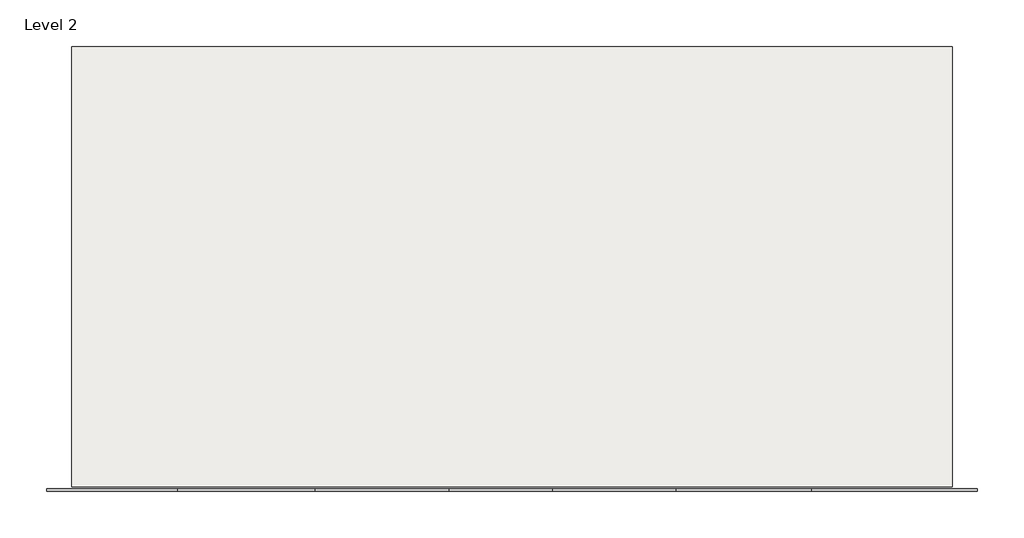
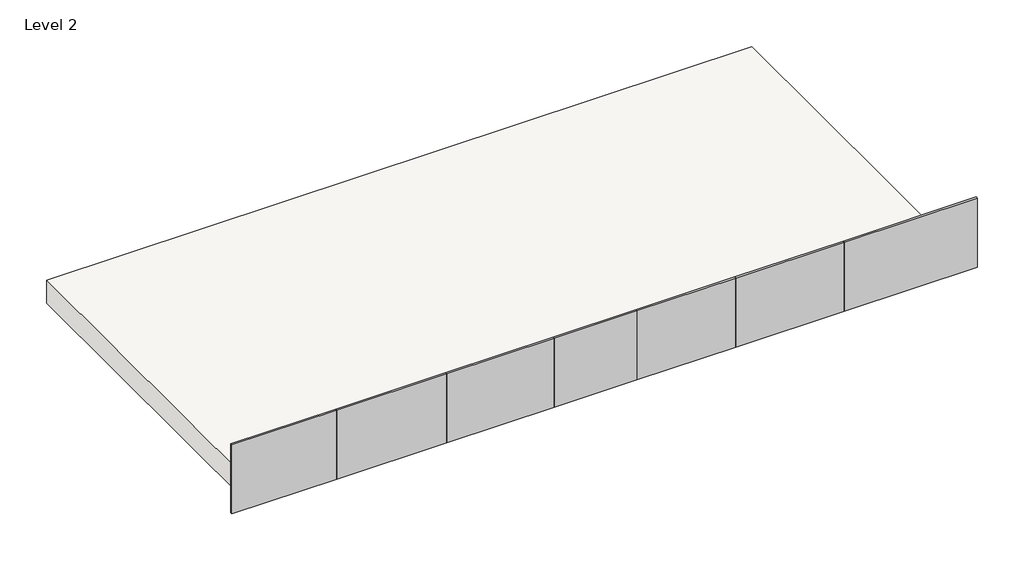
# One storey: 7 plates, 1 slab.
"""IFC4 building model written with IfcOpenShell, lengths in millimetres."""

import ifcopenshell
import ifcopenshell.guid

model = None  # the IFC model being written
_history = None  # IfcOwnerHistory: only IFC2X3 demands one
_inside = {}  # id of a spatial element -> (the spatial element, [elements in it])
_under = {}  # id of a project, library or spatial element -> (it, [spatial elements below it])
_declared = {}  # id of a project -> (the project, [libraries it declares])
_typed = {}  # id of a type object -> (the type object, [elements of that type])
_made_of = {}  # id of a material, layer set ... -> (it, [elements and type objects made of it])


def new_model(schema):
    """Start an empty IFC model of exactly this schema.

    Asked for "IFC4X3", IfcOpenShell would pick the latest addendum, in which some entities
    have other attributes; the version numbers below select the first issue.
    IFC2X3 requires an IfcOwnerHistory on every rooted entity: one is made here for all.
    """
    global model, _history
    if schema == "IFC4X3":
        model = ifcopenshell.file(schema_version=(4, 3, 0, 0))
    else:
        model = ifcopenshell.file(schema=schema)
    _inside.clear()
    _under.clear()
    _declared.clear()
    _typed.clear()
    _made_of.clear()
    _history = None
    if model.schema == "IFC2X3":
        org = make("IfcOrganization", Name="unknown")
        user = make(
            "IfcPersonAndOrganization",
            ThePerson=make("IfcPerson", FamilyName="unknown"),
            TheOrganization=org,
        )
        app = make(
            "IfcApplication",
            ApplicationDeveloper=org,
            Version="unknown",
            ApplicationFullName="unknown",
            ApplicationIdentifier="unknown",
        )
        _history = make(
            "IfcOwnerHistory",
            OwningUser=user,
            OwningApplication=app,
            ChangeAction="ADDED",
            CreationDate=0,
        )
    return model


def make(cls, **values):
    """One entity of the class cls with the attributes given. An attribute that is None is left unset."""
    return model.create_entity(
        cls, **{name: value for name, value in values.items() if value is not None}
    )


def rooted(cls, **values):
    """An entity with a GlobalId (a new one), such as an element, a storey or a relation."""
    return make(cls, GlobalId=ifcopenshell.guid.new(), OwnerHistory=_history, **values)


def si_unit(unit_type, name, prefix=None):
    """IfcSIUnit, for example si_unit("LENGTHUNIT", "METRE", prefix="MILLI")."""
    return make("IfcSIUnit", UnitType=unit_type, Prefix=prefix, Name=name)


def assignment(units):
    """IfcUnitAssignment: the units of a project."""
    return None if units is None else make("IfcUnitAssignment", Units=units)


def point(xyz):
    """IfcCartesianPoint."""
    return None if xyz is None else make("IfcCartesianPoint", Coordinates=xyz)


def direction(xyz):
    """IfcDirection."""
    return None if xyz is None else make("IfcDirection", DirectionRatios=xyz)


def frame(location, z_axis=None, x_axis=None):
    """IfcAxis2Placement3D, a coordinate frame: its origin and axes. An axis left out is left unset."""
    return make(
        "IfcAxis2Placement3D",
        Location=point(location),
        Axis=direction(z_axis),
        RefDirection=direction(x_axis),
    )


def origin():
    """The frame at (0, 0, 0) with its axes left unset."""
    return frame((0.0, 0.0, 0.0))


def origin_with_axes():
    """The frame at (0, 0, 0) with the z axis (0, 0, 1) and the x axis (1, 0, 0) written out."""
    return frame((0.0, 0.0, 0.0), z_axis=(0.0, 0.0, 1.0), x_axis=(1.0, 0.0, 0.0))


def place(relative_to, where):
    """IfcLocalPlacement: puts the frame where relative to a parent placement (None: the world)."""
    return make(
        "IfcLocalPlacement", PlacementRelTo=relative_to, RelativePlacement=where
    )


def context(
    kind, dimensions, precision=None, world=None, true_north=None, identifier=None
):
    """IfcGeometricRepresentationContext, for example the 3D "Model" context."""
    return make(
        "IfcGeometricRepresentationContext",
        ContextIdentifier=identifier,
        ContextType=kind,
        CoordinateSpaceDimension=dimensions,
        Precision=precision,
        WorldCoordinateSystem=world,
        TrueNorth=true_north,
    )


def project(units=None, contexts=None):
    """IfcProject with its units and contexts."""
    return rooted(
        "IfcProject",
        Name="project",
        RepresentationContexts=contexts,
        UnitsInContext=assignment(units),
    )


def spatial(cls, under=None, at=None, **own):
    """A site, building, storey or space (cls), placed at a placement, below another one or the project."""
    s = rooted(cls, ObjectPlacement=at, **own)
    if under is not None:
        _under.setdefault(under.id(), (under, []))[1].append(s)
    return s


def polyline(points):
    """IfcPolyline through the points."""
    return make("IfcPolyline", Points=[point(p) for p in points])


def outline(outer, holes=None, kind="AREA"):
    """IfcArbitraryClosedProfileDef: a profile drawn as a closed curve; with holes, ...WithVoids."""
    if holes is None:
        return make("IfcArbitraryClosedProfileDef", ProfileType=kind, OuterCurve=outer)
    return make(
        "IfcArbitraryProfileDefWithVoids",
        ProfileType=kind,
        OuterCurve=outer,
        InnerCurves=holes,
    )


def extrude(swept, where, along, depth):
    """IfcExtrudedAreaSolid: the profile swept, set in the frame where, extruded along a direction by depth."""
    return make(
        "IfcExtrudedAreaSolid",
        SweptArea=swept,
        Position=where,
        ExtrudedDirection=direction(along),
        Depth=depth,
    )


def shape(context_of_items, identifier, shape_type, items):
    """IfcShapeRepresentation: the items that make up one representation, for example the "Body"."""
    return make(
        "IfcShapeRepresentation",
        ContextOfItems=context_of_items,
        RepresentationIdentifier=identifier,
        RepresentationType=shape_type,
        Items=items,
    )


def source(mapping_origin, context_of_items, identifier, shape_type, items):
    """IfcRepresentationMap: a shape defined once, which mapped items show again and again."""
    return make(
        "IfcRepresentationMap",
        MappingOrigin=mapping_origin,
        MappedRepresentation=shape(context_of_items, identifier, shape_type, items),
    )


def transform(
    local_origin,
    x_axis=None,
    y_axis=None,
    z_axis=None,
    scale=None,
    scale2=None,
    scale3=None,
    uniform=True,
):
    """IfcCartesianTransformationOperator3D, or its non-uniform kind. x_axis, y_axis, z_axis: its Axis1, 2, 3."""
    if uniform:
        return make(
            "IfcCartesianTransformationOperator3D",
            Axis1=direction(x_axis),
            Axis2=direction(y_axis),
            LocalOrigin=point(local_origin),
            Scale=scale,
            Axis3=direction(z_axis),
        )
    return make(
        "IfcCartesianTransformationOperator3DnonUniform",
        Axis1=direction(x_axis),
        Axis2=direction(y_axis),
        LocalOrigin=point(local_origin),
        Scale=scale,
        Axis3=direction(z_axis),
        Scale2=scale2,
        Scale3=scale3,
    )


def mapped(mapping_source, mapping_target):
    """IfcMappedItem: shows the shape of a source again, moved by a transform."""
    return make(
        "IfcMappedItem", MappingSource=mapping_source, MappingTarget=mapping_target
    )


def made_of(thing, what):
    """Note that an element or type object is made of a material, layer set ...; save() writes the relation."""
    if what is not None:
        _made_of.setdefault(what.id(), (what, []))[1].append(thing)
    return thing


def element(
    cls,
    number,
    at=None,
    inside=None,
    cuts=None,
    type_object=None,
    material=None,
    context=None,
    identifier="Body",
    shape_type=None,
    held_by="IfcProductDefinitionShape",
    body=None,
    shapes=None,
    **own,
):
    """One element of the class cls, such as IfcWall. Its Tag is "e" and its number.

    at: its placement. inside: the storey or other place that contains it. cuts: it is an
    opening in that element (IfcRelVoidsElement). A single representation is given by context,
    identifier, shape_type and body (its items); several are given by shapes. held_by: the class
    of the entity that holds the representations. save() writes the other relations.
    """
    e = rooted(cls, Tag="e%d" % number, ObjectPlacement=at, **own)
    if body is not None:
        shapes = [shape(context, identifier, shape_type, body)]
    if shapes is not None:
        e.Representation = make(held_by, Representations=shapes)
    if inside is not None:
        _inside.setdefault(inside.id(), (inside, []))[1].append(e)
    if cuts is not None:
        rooted(
            "IfcRelVoidsElement", RelatingBuildingElement=cuts, RelatedOpeningElement=e
        )
    if type_object is not None:
        _typed.setdefault(type_object.id(), (type_object, []))[1].append(e)
    return made_of(e, material)


def aggregate(whole, parts):
    """IfcRelAggregates: a whole, such as a stair, and the parts it consists of."""
    return rooted("IfcRelAggregates", RelatingObject=whole, RelatedObjects=parts)


def save(model, path):
    """Write the relations noted so far, then the file.

    IfcRelAggregates (storeys below a building ...), IfcRelContainedInSpatialStructure (elements
    in a storey), IfcRelDefinesByType, IfcRelAssociatesMaterial and IfcRelDeclares: one each for
    every whole, place, type object, material and project.
    """
    for whole, parts in _under.values():
        aggregate(whole, parts)
    for where, things in _inside.values():
        rooted(
            "IfcRelContainedInSpatialStructure",
            RelatedElements=things,
            RelatingStructure=where,
        )
    for kind, things in _typed.values():
        rooted("IfcRelDefinesByType", RelatedObjects=things, RelatingType=kind)
    for what, things in _made_of.values():
        rooted("IfcRelAssociatesMaterial", RelatedObjects=things, RelatingMaterial=what)
    for by, libraries in _declared.values():
        rooted("IfcRelDeclares", RelatingContext=by, RelatedDefinitions=libraries)
    model.write(path)


def system_panel_glazed_b67e3fcc(model_context):
    return source(origin(), model_context, "Body", "SweptSolid", [
        extrude(outline(polyline([(656.9445429, 19.05), (-656.9445429, 19.05), (-656.9445429, 44.45), (656.9445429, 44.45), (656.9445429, 19.05)])), origin_with_axes(), (0.0, 0.0, 1.0), 914.4),
    ])


def system_panel_glazed_2ee17534(model_context):
    return source(origin(), model_context, "Body", "SweptSolid", [
        extrude(outline(polyline([(688.5886914, 19.05), (-688.5886914, 19.05), (-688.5886914, 44.45), (688.5886914, 44.45), (688.5886914, 19.05)])), origin_with_axes(), (0.0, 0.0, 1.0), 914.4),
    ])


def system_panel_glazed_a769a047(model_context):
    return source(origin(), model_context, "Body", "SweptSolid", [
        extrude(outline(polyline([(674.4738159, 19.05), (-674.4738159, 19.05), (-674.4738159, 44.45), (674.4738159, 44.45), (674.4738159, 19.05)])), origin_with_axes(), (0.0, 0.0, 1.0), 914.4),
    ])


def system_panel_glazed_ef3b6359(model_context):
    return source(origin(), model_context, "Body", "SweptSolid", [
        extrude(outline(polyline([(518.8620624, 19.05), (-518.8620624, 19.05), (-518.8620624, 44.45), (518.8620624, 44.45), (518.8620624, 19.05)])), origin_with_axes(), (0.0, 0.0, 1.0), 914.4),
    ])


def system_panel_glazed_ea747cd8(model_context):
    return source(origin(), model_context, "Body", "SweptSolid", [
        extrude(outline(polyline([(835.4173679, 19.05), (-835.4173679, 19.05), (-835.4173679, 44.45), (835.4173679, 44.45), (835.4173679, 19.05)])), origin_with_axes(), (0.0, 0.0, 1.0), 914.4),
    ])


def system_panel_glazed_22a4ab8e(model_context):
    return source(origin(), model_context, "Body", "SweptSolid", [
        extrude(outline(polyline([(619.2304533, 19.05), (-619.2304533, 19.05), (-619.2304533, 44.45), (619.2304533, 44.45), (619.2304533, 19.05)])), origin_with_axes(), (0.0, 0.0, 1.0), 914.4),
    ])


def system_panel_glazed_17a94d02(model_context):
    return source(origin(), model_context, "Body", "SweptSolid", [
        extrude(outline(polyline([(680.0830663, 19.05), (-680.0830663, 19.05), (-680.0830663, 44.45), (680.0830663, 44.45), (680.0830663, 19.05)])), origin_with_axes(), (0.0, 0.0, 1.0), 914.4),
    ])


model = new_model("IFC4")

# Units and contexts
model_context = context("Model", 3, world=origin())
ifc_project = project(units=[si_unit("LENGTHUNIT", "METRE", prefix="MILLI")], contexts=[model_context])

# Site, building, storey
site = spatial("IfcSite", under=ifc_project)
building = spatial("IfcBuilding", under=site)
storey = spatial("IfcBuildingStorey", under=building, Name="Level 2", Elevation=3048.0)

# Plates
placement = place(None, origin())
system_panel_glazed_shape = system_panel_glazed_b67e3fcc(model_context)
element("IfcPlate", 1, ObjectType="System Panel : Glazed", at=placement, inside=storey, context=model_context, shape_type="MappedRepresentation", body=[
    mapped(system_panel_glazed_shape, transform((-2448.7996198, 909.2024759, 3048.0), x_axis=(-1.0, 0.0, 0.0), y_axis=(0.0, -1.0, 0.0), z_axis=(0.0, 0.0, 1.0))),
])
system_panel_glazed_2_shape = system_panel_glazed_2ee17534(model_context)
element("IfcPlate", 2, ObjectType="System Panel : Glazed", at=placement, inside=storey, context=model_context, shape_type="MappedRepresentation", body=[
    mapped(system_panel_glazed_2_shape, transform((-1103.2663854, 909.2024759, 3048.0), x_axis=(-1.0, 0.0, 0.0), y_axis=(0.0, -1.0, 0.0), z_axis=(0.0, 0.0, 1.0))),
])
system_panel_glazed_3_shape = system_panel_glazed_a769a047(model_context)
element("IfcPlate", 3, ObjectType="System Panel : Glazed", at=placement, inside=storey, context=model_context, shape_type="MappedRepresentation", body=[
    mapped(system_panel_glazed_3_shape, transform((259.7961218, 909.2024759, 3048.0), x_axis=(-1.0, 0.0, 0.0), y_axis=(0.0, -1.0, 0.0), z_axis=(0.0, 0.0, 1.0))),
])
system_panel_glazed_4_shape = system_panel_glazed_ef3b6359(model_context)
element("IfcPlate", 4, ObjectType="System Panel : Glazed", at=placement, inside=storey, context=model_context, shape_type="MappedRepresentation", body=[
    mapped(system_panel_glazed_4_shape, transform((1453.1320001, 909.2024759, 3048.0), x_axis=(-1.0, 0.0, 0.0), y_axis=(0.0, -1.0, 0.0), z_axis=(0.0, 0.0, 1.0))),
])
system_panel_glazed_5_shape = system_panel_glazed_ea747cd8(model_context)
element("IfcPlate", 5, ObjectType="System Panel : Glazed", at=placement, inside=storey, context=model_context, shape_type="MappedRepresentation", body=[
    mapped(system_panel_glazed_5_shape, transform((5406.0384694, 909.2024759, 3048.0), x_axis=(-1.0, 0.0, 0.0), y_axis=(0.0, -1.0, 0.0), z_axis=(0.0, 0.0, 1.0))),
])
system_panel_glazed_6_shape = system_panel_glazed_22a4ab8e(model_context)
element("IfcPlate", 6, ObjectType="System Panel : Glazed", at=placement, inside=storey, context=model_context, shape_type="MappedRepresentation", body=[
    mapped(system_panel_glazed_6_shape, transform((2591.2245158, 909.2024759, 3048.0), x_axis=(-1.0, 0.0, 0.0), y_axis=(0.0, -1.0, 0.0), z_axis=(0.0, 0.0, 1.0))),
])
system_panel_glazed_7_shape = system_panel_glazed_17a94d02(model_context)
element("IfcPlate", 7, ObjectType="System Panel : Glazed", at=placement, inside=storey, context=model_context, shape_type="MappedRepresentation", body=[
    mapped(system_panel_glazed_7_shape, transform((3890.5380353, 909.2024759, 3048.0), x_axis=(-1.0, 0.0, 0.0), y_axis=(0.0, -1.0, 0.0), z_axis=(0.0, 0.0, 1.0))),
])

# Slab
element("IfcSlab", 8, ObjectType="Generic - 12\"", at=placement, inside=storey, context=model_context, shape_type="SweptSolid", body=[
    extrude(outline(polyline([(5987.4558373, 909.2024759), (-2851.7441627, 909.2024759), (-2851.7441627, 5328.8024759), (5987.4558373, 5328.8024759), (5987.4558373, 909.2024759)])), frame((0.0, 0.0, 3048.0), z_axis=(0.0, 0.0, 1.0), x_axis=(1.0, 0.0, 0.0)), (0.0, 0.0, 1.0), 304.8),
])

save(model, "model.ifc")
